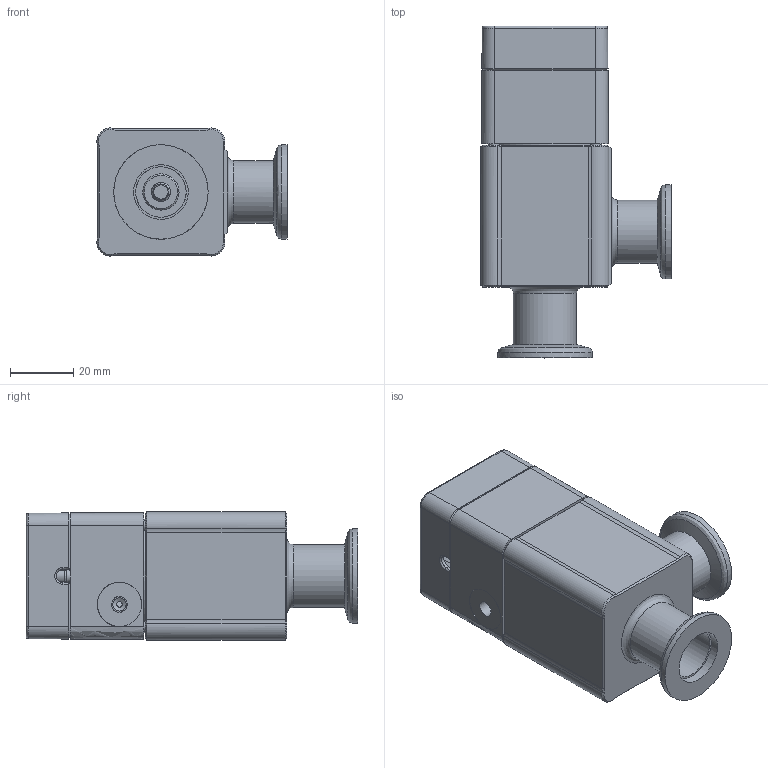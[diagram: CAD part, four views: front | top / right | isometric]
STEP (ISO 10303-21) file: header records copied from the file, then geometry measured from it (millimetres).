
FILE_DESCRIPTION((''),'2;1');
FILE_NAME('C:\TEMP\IDEAS\240246.stp','2006-09-19T12:35:20',('User'),( 'SDRC'),'I-DEAS Master Series 9','UNIX','Yes');
FILE_SCHEMA(('CONFIG_CONTROL_DESIGN'));
Length unit declared in the file: millimetre
Assembly tree (10 placements, depth 0):
Bounding box: 60.3 x 105.2 x 40.6 mm (x, y, z)
Volume: 60870 mm3; surface area: 44271.3 mm2
Topology: 9 solids, 11 shells, 517 faces, 1251 edges, 796 vertices
Faces by surface type: bspline 517
Entity records: 16616 total; most frequent: CARTESIAN_POINT 8975, ORIENTED_EDGE 2241, EDGE_CURVE 1122, VERTEX_POINT 715, EDGE_LOOP 531, FACE_OUTER_BOUND 460, ADVANCED_FACE 460, QUASI_UNIFORM_CURVE 403
